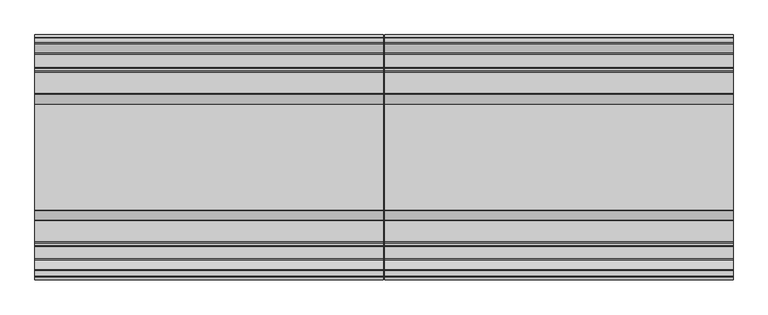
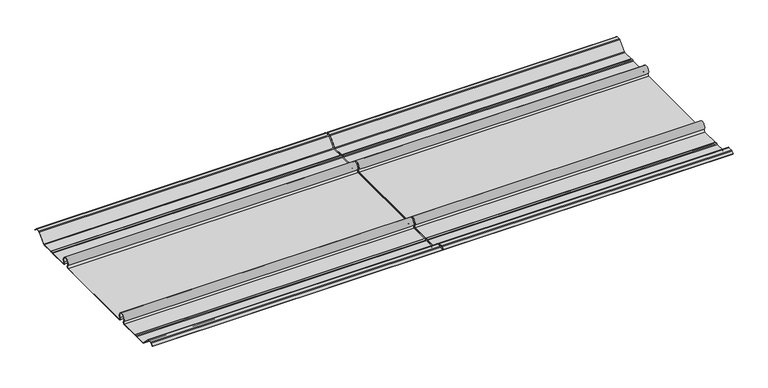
"""IFC4 building model written with IfcOpenShell, lengths in millimetres: proxy geometry."""

from ifc_helpers import new_model, si_unit, point, frame, frame_2d, origin, place, context, project, spatial, polyline, circle_curve, trimmed, segment, composite_curve, outline, extrude, source, transform, mapped, element, save


def generic_models_5a04200d(model_context):
    return source(origin(), model_context, "Body", "SweptSolid", [
        extrude(outline(composite_curve([segment(polyline([(-4.021536, 17.692427), (0.0, 13.8209287), (-0.5628134, 13.2581153), (-4.8173305, 17.3539026)]), True, "CONTINUOUS"), segment(trimmed(circle_curve(frame_2d((-6.6934261, 15.4051)), 2.7051), [point((-4.8173305, 17.3539026))], [point((-6.6934261, 18.1102))], True, "CARTESIAN"), True, "CONTINUOUS"), segment(polyline([(-6.6934261, 18.1102), (-13.8817457, 18.1102)]), True, "CONTINUOUS"), segment(trimmed(circle_curve(frame_2d((-13.8817457, 15.4051)), 2.7051), [point((-13.8817457, 18.1102))], [point((-15.8059623, 17.3064039))], True, "CARTESIAN"), True, "CONTINUOUS"), segment(polyline([(-15.8059623, 17.3064039), (-31.9741011, 0.9434226)]), True, "CONTINUOUS"), segment(trimmed(circle_curve(frame_2d((-34.2325712, 3.175)), 3.175), [point((-31.9741011, 0.9434226))], [point((-34.2325712, 0.0))], False, "CARTESIAN"), True, "CONTINUOUS"), segment(polyline([(-34.2325712, 0.0), (-57.3486405, 0.0)]), True, "CONTINUOUS"), segment(trimmed(circle_curve(frame_2d((-57.3486405, 3.175)), 3.175), [point((-57.3486405, 0.0))], [point((-59.3419174, 0.70367))], False, "CARTESIAN"), True, "CONTINUOUS"), segment(trimmed(circle_curve(frame_2d((-61.3351943, -1.7676601)), 3.175), [point((-59.3419174, 0.70367))], [point((-63.3284712, 0.70367))], True, "CARTESIAN"), True, "CONTINUOUS"), segment(trimmed(circle_curve(frame_2d((-65.3217481, 3.175)), 3.175), [point((-63.3284712, 0.70367))], [point((-65.3217481, 0.0))], False, "CARTESIAN"), True, "CONTINUOUS"), segment(polyline([(-65.3217481, 0.0), (-102.59972, 0.0)]), True, "CONTINUOUS"), segment(trimmed(circle_curve(frame_2d((-102.59972, 3.3362305)), 3.3362305), [point((-102.59972, 0.0))], [point((-105.2911698, 5.3076593))], False, "CARTESIAN"), True, "CONTINUOUS"), segment(trimmed(circle_curve(frame_2d((-111.8031627, 10.0775533)), 8.0720469), [point((-105.2911698, 5.3076593))], [point((-118.3151555, 5.3076593))], True, "CARTESIAN"), True, "CONTINUOUS"), segment(trimmed(circle_curve(frame_2d((-121.0066054, 3.3362305)), 3.3362305), [point((-118.3151555, 5.3076593))], [point((-121.0066054, 0.0))], False, "CARTESIAN"), True, "CONTINUOUS"), segment(polyline([(-121.0066054, 0.0), (-306.0308946, 0.0)]), True, "CONTINUOUS"), segment(trimmed(circle_curve(frame_2d((-306.0308946, 3.3362305)), 3.3362305), [point((-306.0308946, 0.0))], [point((-308.7223445, 5.3076593))], False, "CARTESIAN"), True, "CONTINUOUS"), segment(trimmed(circle_curve(frame_2d((-315.2343373, 10.0775533)), 8.0720469), [point((-308.7223445, 5.3076593))], [point((-321.7463302, 5.3076593))], True, "CARTESIAN"), True, "CONTINUOUS"), segment(trimmed(circle_curve(frame_2d((-324.43778, 3.3362305)), 3.3362305), [point((-321.7463302, 5.3076593))], [point((-324.43778, 0.0))], False, "CARTESIAN"), True, "CONTINUOUS"), segment(polyline([(-324.43778, 0.0), (-361.7157519, 0.0)]), True, "CONTINUOUS"), segment(trimmed(circle_curve(frame_2d((-361.7157519, 3.175)), 3.175), [point((-361.7157519, 0.0))], [point((-363.7090288, 0.70367))], False, "CARTESIAN"), True, "CONTINUOUS"), segment(trimmed(circle_curve(frame_2d((-365.7023057, -1.7676601)), 3.175), [point((-363.7090288, 0.70367))], [point((-367.6955826, 0.70367))], True, "CARTESIAN"), True, "CONTINUOUS"), segment(trimmed(circle_curve(frame_2d((-369.6888595, 3.175)), 3.175), [point((-367.6955826, 0.70367))], [point((-369.6888595, 0.0))], False, "CARTESIAN"), True, "CONTINUOUS"), segment(polyline([(-369.6888595, 0.0), (-391.0183557, 0.0)]), True, "CONTINUOUS"), segment(trimmed(circle_curve(frame_2d((-391.0183557, 3.175)), 3.175), [point((-391.0183557, 0.0))], [point((-393.2768259, 0.9434226))], False, "CARTESIAN"), True, "CONTINUOUS"), segment(polyline([(-393.2768259, 0.9434226), (-409.9092693, 17.7763039)]), True, "CONTINUOUS"), segment(trimmed(circle_curve(frame_2d((-411.8334859, 15.875)), 2.7051), [point((-409.9092693, 17.7763039))], [point((-411.8334859, 18.5801))], True, "CARTESIAN"), True, "CONTINUOUS"), segment(polyline([(-411.8334859, 18.5801), (-420.3440739, 18.5801)]), True, "CONTINUOUS"), segment(trimmed(circle_curve(frame_2d((-420.3440739, 15.875)), 2.7051), [point((-420.3440739, 18.5801))], [point((-422.2201695, 17.8238026))], True, "CARTESIAN"), True, "CONTINUOUS"), segment(polyline([(-422.2201695, 17.8238026), (-426.4855845, 13.717524), (-427.0483979, 14.2803374), (-423.015964, 18.162327)]), True, "CONTINUOUS"), segment(trimmed(circle_curve(frame_2d((-420.8139739, 15.875)), 3.175), [point((-423.015964, 18.162327))], [point((-420.8139739, 19.05))], False, "CARTESIAN"), True, "CONTINUOUS"), segment(polyline([(-420.8139739, 19.05), (-411.8334859, 19.05)]), True, "CONTINUOUS"), segment(trimmed(circle_curve(frame_2d((-411.8334859, 15.875)), 3.175), [point((-411.8334859, 19.05))], [point((-409.5750157, 18.1065774))], False, "CARTESIAN"), True, "CONTINUOUS"), segment(polyline([(-409.5750157, 18.1065774), (-392.9425723, 1.2736961)]), True, "CONTINUOUS"), segment(trimmed(circle_curve(frame_2d((-391.0183557, 3.175)), 2.7051), [point((-392.9425723, 1.2736961))], [point((-391.0183557, 0.4699))], True, "CARTESIAN"), True, "CONTINUOUS"), segment(polyline([(-391.0183557, 0.4699), (-369.8514296, 0.4699)]), True, "CONTINUOUS"), segment(trimmed(circle_curve(frame_2d((-369.8514296, 3.6449)), 3.175), [point((-369.8514296, 0.4699))], [point((-367.9198077, 1.1250862))], True, "CARTESIAN"), True, "CONTINUOUS"), segment(trimmed(circle_curve(frame_2d((-365.7023057, -1.7676601)), 3.6449), [point((-367.9198077, 1.1250862))], [point((-363.4848037, 1.1250862))], False, "CARTESIAN"), True, "CONTINUOUS"), segment(trimmed(circle_curve(frame_2d((-361.5531818, 3.6449)), 3.175), [point((-363.4848037, 1.1250862))], [point((-361.5531818, 0.4699))], True, "CARTESIAN"), True, "CONTINUOUS"), segment(polyline([(-361.5531818, 0.4699), (-324.43778, 0.4699)]), True, "CONTINUOUS"), segment(trimmed(circle_curve(frame_2d((-324.43778, 3.3362305)), 2.8663305), [point((-324.43778, 0.4699))], [point((-322.1254144, 5.0299883))], True, "CARTESIAN"), True, "CONTINUOUS"), segment(trimmed(circle_curve(frame_2d((-315.2343373, 10.0775533)), 8.5419469), [point((-322.1254144, 5.0299883))], [point((-308.3432603, 5.0299883))], False, "CARTESIAN"), True, "CONTINUOUS"), segment(trimmed(circle_curve(frame_2d((-306.0308946, 3.3362305)), 2.8663305), [point((-308.3432603, 5.0299883))], [point((-306.0308946, 0.4699))], True, "CARTESIAN"), True, "CONTINUOUS"), segment(polyline([(-306.0308946, 0.4699), (-121.0066054, 0.4699)]), True, "CONTINUOUS"), segment(trimmed(circle_curve(frame_2d((-121.0066054, 3.3362305)), 2.8663305), [point((-121.0066054, 0.4699))], [point((-118.6942397, 5.0299883))], True, "CARTESIAN"), True, "CONTINUOUS"), segment(trimmed(circle_curve(frame_2d((-111.8031627, 10.0775533)), 8.5419469), [point((-118.6942397, 5.0299883))], [point((-104.9120856, 5.0299883))], False, "CARTESIAN"), True, "CONTINUOUS"), segment(trimmed(circle_curve(frame_2d((-102.59972, 3.3362305)), 2.8663305), [point((-104.9120856, 5.0299883))], [point((-102.59972, 0.4699))], True, "CARTESIAN"), True, "CONTINUOUS"), segment(polyline([(-102.59972, 0.4699), (-65.4843182, 0.4699)]), True, "CONTINUOUS"), segment(trimmed(circle_curve(frame_2d((-65.4843182, 3.6449)), 3.175), [point((-65.4843182, 0.4699))], [point((-63.5526963, 1.1250862))], True, "CARTESIAN"), True, "CONTINUOUS"), segment(trimmed(circle_curve(frame_2d((-61.3351943, -1.7676601)), 3.6449), [point((-63.5526963, 1.1250862))], [point((-59.1176923, 1.1250862))], False, "CARTESIAN"), True, "CONTINUOUS"), segment(trimmed(circle_curve(frame_2d((-57.1860704, 3.6449)), 3.175), [point((-59.1176923, 1.1250862))], [point((-57.1860704, 0.4699))], True, "CARTESIAN"), True, "CONTINUOUS"), segment(polyline([(-57.1860704, 0.4699), (-34.2325712, 0.4699)]), True, "CONTINUOUS"), segment(trimmed(circle_curve(frame_2d((-34.2325712, 3.175)), 2.7051), [point((-34.2325712, 0.4699))], [point((-32.3083547, 1.2736961))], True, "CARTESIAN"), True, "CONTINUOUS"), segment(polyline([(-32.3083547, 1.2736961), (-16.1402159, 17.6366774)]), True, "CONTINUOUS"), segment(trimmed(circle_curve(frame_2d((-13.8817457, 15.4051)), 3.175), [point((-16.1402159, 17.6366774))], [point((-13.8817457, 18.5801))], False, "CARTESIAN"), True, "CONTINUOUS"), segment(polyline([(-13.8817457, 18.5801), (-6.2235261, 18.5801)]), True, "CONTINUOUS"), segment(trimmed(circle_curve(frame_2d((-6.2235261, 15.4051)), 3.175), [point((-6.2235261, 18.5801))], [point((-4.021536, 17.692427))], False, "CARTESIAN"), True, "CONTINUOUS")], self_intersect=False)), frame((609.6, 0.0, 0.0), z_axis=(1.0, 0.0, 0.0), x_axis=(0.0, 1.0, 0.0)), (0.0, 0.0, 1.0), 606.425),
        extrude(outline(composite_curve([segment(polyline([(-4.021536, 17.692427), (0.0, 13.8209287), (-0.5628134, 13.2581153), (-4.8173305, 17.3539026)]), True, "CONTINUOUS"), segment(trimmed(circle_curve(frame_2d((-6.6934261, 15.4051)), 2.7051), [point((-4.8173305, 17.3539026))], [point((-6.6934261, 18.1102))], True, "CARTESIAN"), True, "CONTINUOUS"), segment(polyline([(-6.6934261, 18.1102), (-13.8817457, 18.1102)]), True, "CONTINUOUS"), segment(trimmed(circle_curve(frame_2d((-13.8817457, 15.4051)), 2.7051), [point((-13.8817457, 18.1102))], [point((-15.8059623, 17.3064039))], True, "CARTESIAN"), True, "CONTINUOUS"), segment(polyline([(-15.8059623, 17.3064039), (-31.9741011, 0.9434226)]), True, "CONTINUOUS"), segment(trimmed(circle_curve(frame_2d((-34.2325712, 3.175)), 3.175), [point((-31.9741011, 0.9434226))], [point((-34.2325712, 0.0))], False, "CARTESIAN"), True, "CONTINUOUS"), segment(polyline([(-34.2325712, 0.0), (-57.3486405, 0.0)]), True, "CONTINUOUS"), segment(trimmed(circle_curve(frame_2d((-57.3486405, 3.175)), 3.175), [point((-57.3486405, 0.0))], [point((-59.3419174, 0.70367))], False, "CARTESIAN"), True, "CONTINUOUS"), segment(trimmed(circle_curve(frame_2d((-61.3351943, -1.7676601)), 3.175), [point((-59.3419174, 0.70367))], [point((-63.3284712, 0.70367))], True, "CARTESIAN"), True, "CONTINUOUS"), segment(trimmed(circle_curve(frame_2d((-65.3217481, 3.175)), 3.175), [point((-63.3284712, 0.70367))], [point((-65.3217481, 0.0))], False, "CARTESIAN"), True, "CONTINUOUS"), segment(polyline([(-65.3217481, 0.0), (-102.59972, 0.0)]), True, "CONTINUOUS"), segment(trimmed(circle_curve(frame_2d((-102.59972, 3.3362305)), 3.3362305), [point((-102.59972, 0.0))], [point((-105.2911698, 5.3076593))], False, "CARTESIAN"), True, "CONTINUOUS"), segment(trimmed(circle_curve(frame_2d((-111.8031627, 10.0775533)), 8.0720469), [point((-105.2911698, 5.3076593))], [point((-118.3151555, 5.3076593))], True, "CARTESIAN"), True, "CONTINUOUS"), segment(trimmed(circle_curve(frame_2d((-121.0066054, 3.3362305)), 3.3362305), [point((-118.3151555, 5.3076593))], [point((-121.0066054, 0.0))], False, "CARTESIAN"), True, "CONTINUOUS"), segment(polyline([(-121.0066054, 0.0), (-306.0308946, 0.0)]), True, "CONTINUOUS"), segment(trimmed(circle_curve(frame_2d((-306.0308946, 3.3362305)), 3.3362305), [point((-306.0308946, 0.0))], [point((-308.7223445, 5.3076593))], False, "CARTESIAN"), True, "CONTINUOUS"), segment(trimmed(circle_curve(frame_2d((-315.2343373, 10.0775533)), 8.0720469), [point((-308.7223445, 5.3076593))], [point((-321.7463302, 5.3076593))], True, "CARTESIAN"), True, "CONTINUOUS"), segment(trimmed(circle_curve(frame_2d((-324.43778, 3.3362305)), 3.3362305), [point((-321.7463302, 5.3076593))], [point((-324.43778, 0.0))], False, "CARTESIAN"), True, "CONTINUOUS"), segment(polyline([(-324.43778, 0.0), (-361.7157519, 0.0)]), True, "CONTINUOUS"), segment(trimmed(circle_curve(frame_2d((-361.7157519, 3.175)), 3.175), [point((-361.7157519, 0.0))], [point((-363.7090288, 0.70367))], False, "CARTESIAN"), True, "CONTINUOUS"), segment(trimmed(circle_curve(frame_2d((-365.7023057, -1.7676601)), 3.175), [point((-363.7090288, 0.70367))], [point((-367.6955826, 0.70367))], True, "CARTESIAN"), True, "CONTINUOUS"), segment(trimmed(circle_curve(frame_2d((-369.6888595, 3.175)), 3.175), [point((-367.6955826, 0.70367))], [point((-369.6888595, 0.0))], False, "CARTESIAN"), True, "CONTINUOUS"), segment(polyline([(-369.6888595, 0.0), (-391.0183557, 0.0)]), True, "CONTINUOUS"), segment(trimmed(circle_curve(frame_2d((-391.0183557, 3.175)), 3.175), [point((-391.0183557, 0.0))], [point((-393.2768259, 0.9434226))], False, "CARTESIAN"), True, "CONTINUOUS"), segment(polyline([(-393.2768259, 0.9434226), (-409.9092693, 17.7763039)]), True, "CONTINUOUS"), segment(trimmed(circle_curve(frame_2d((-411.8334859, 15.875)), 2.7051), [point((-409.9092693, 17.7763039))], [point((-411.8334859, 18.5801))], True, "CARTESIAN"), True, "CONTINUOUS"), segment(polyline([(-411.8334859, 18.5801), (-420.3440739, 18.5801)]), True, "CONTINUOUS"), segment(trimmed(circle_curve(frame_2d((-420.3440739, 15.875)), 2.7051), [point((-420.3440739, 18.5801))], [point((-422.2201695, 17.8238026))], True, "CARTESIAN"), True, "CONTINUOUS"), segment(polyline([(-422.2201695, 17.8238026), (-426.4855845, 13.717524), (-427.0483979, 14.2803374), (-423.015964, 18.162327)]), True, "CONTINUOUS"), segment(trimmed(circle_curve(frame_2d((-420.8139739, 15.875)), 3.175), [point((-423.015964, 18.162327))], [point((-420.8139739, 19.05))], False, "CARTESIAN"), True, "CONTINUOUS"), segment(polyline([(-420.8139739, 19.05), (-411.8334859, 19.05)]), True, "CONTINUOUS"), segment(trimmed(circle_curve(frame_2d((-411.8334859, 15.875)), 3.175), [point((-411.8334859, 19.05))], [point((-409.5750157, 18.1065774))], False, "CARTESIAN"), True, "CONTINUOUS"), segment(polyline([(-409.5750157, 18.1065774), (-392.9425723, 1.2736961)]), True, "CONTINUOUS"), segment(trimmed(circle_curve(frame_2d((-391.0183557, 3.175)), 2.7051), [point((-392.9425723, 1.2736961))], [point((-391.0183557, 0.4699))], True, "CARTESIAN"), True, "CONTINUOUS"), segment(polyline([(-391.0183557, 0.4699), (-369.8514296, 0.4699)]), True, "CONTINUOUS"), segment(trimmed(circle_curve(frame_2d((-369.8514296, 3.6449)), 3.175), [point((-369.8514296, 0.4699))], [point((-367.9198077, 1.1250862))], True, "CARTESIAN"), True, "CONTINUOUS"), segment(trimmed(circle_curve(frame_2d((-365.7023057, -1.7676601)), 3.6449), [point((-367.9198077, 1.1250862))], [point((-363.4848037, 1.1250862))], False, "CARTESIAN"), True, "CONTINUOUS"), segment(trimmed(circle_curve(frame_2d((-361.5531818, 3.6449)), 3.175), [point((-363.4848037, 1.1250862))], [point((-361.5531818, 0.4699))], True, "CARTESIAN"), True, "CONTINUOUS"), segment(polyline([(-361.5531818, 0.4699), (-324.43778, 0.4699)]), True, "CONTINUOUS"), segment(trimmed(circle_curve(frame_2d((-324.43778, 3.3362305)), 2.8663305), [point((-324.43778, 0.4699))], [point((-322.1254144, 5.0299883))], True, "CARTESIAN"), True, "CONTINUOUS"), segment(trimmed(circle_curve(frame_2d((-315.2343373, 10.0775533)), 8.5419469), [point((-322.1254144, 5.0299883))], [point((-308.3432603, 5.0299883))], False, "CARTESIAN"), True, "CONTINUOUS"), segment(trimmed(circle_curve(frame_2d((-306.0308946, 3.3362305)), 2.8663305), [point((-308.3432603, 5.0299883))], [point((-306.0308946, 0.4699))], True, "CARTESIAN"), True, "CONTINUOUS"), segment(polyline([(-306.0308946, 0.4699), (-121.0066054, 0.4699)]), True, "CONTINUOUS"), segment(trimmed(circle_curve(frame_2d((-121.0066054, 3.3362305)), 2.8663305), [point((-121.0066054, 0.4699))], [point((-118.6942397, 5.0299883))], True, "CARTESIAN"), True, "CONTINUOUS"), segment(trimmed(circle_curve(frame_2d((-111.8031627, 10.0775533)), 8.5419469), [point((-118.6942397, 5.0299883))], [point((-104.9120856, 5.0299883))], False, "CARTESIAN"), True, "CONTINUOUS"), segment(trimmed(circle_curve(frame_2d((-102.59972, 3.3362305)), 2.8663305), [point((-104.9120856, 5.0299883))], [point((-102.59972, 0.4699))], True, "CARTESIAN"), True, "CONTINUOUS"), segment(polyline([(-102.59972, 0.4699), (-65.4843182, 0.4699)]), True, "CONTINUOUS"), segment(trimmed(circle_curve(frame_2d((-65.4843182, 3.6449)), 3.175), [point((-65.4843182, 0.4699))], [point((-63.5526963, 1.1250862))], True, "CARTESIAN"), True, "CONTINUOUS"), segment(trimmed(circle_curve(frame_2d((-61.3351943, -1.7676601)), 3.6449), [point((-63.5526963, 1.1250862))], [point((-59.1176923, 1.1250862))], False, "CARTESIAN"), True, "CONTINUOUS"), segment(trimmed(circle_curve(frame_2d((-57.1860704, 3.6449)), 3.175), [point((-59.1176923, 1.1250862))], [point((-57.1860704, 0.4699))], True, "CARTESIAN"), True, "CONTINUOUS"), segment(polyline([(-57.1860704, 0.4699), (-34.2325712, 0.4699)]), True, "CONTINUOUS"), segment(trimmed(circle_curve(frame_2d((-34.2325712, 3.175)), 2.7051), [point((-34.2325712, 0.4699))], [point((-32.3083547, 1.2736961))], True, "CARTESIAN"), True, "CONTINUOUS"), segment(polyline([(-32.3083547, 1.2736961), (-16.1402159, 17.6366774)]), True, "CONTINUOUS"), segment(trimmed(circle_curve(frame_2d((-13.8817457, 15.4051)), 3.175), [point((-16.1402159, 17.6366774))], [point((-13.8817457, 18.5801))], False, "CARTESIAN"), True, "CONTINUOUS"), segment(polyline([(-13.8817457, 18.5801), (-6.2235261, 18.5801)]), True, "CONTINUOUS"), segment(trimmed(circle_curve(frame_2d((-6.2235261, 15.4051)), 3.175), [point((-6.2235261, 18.5801))], [point((-4.021536, 17.692427))], False, "CARTESIAN"), True, "CONTINUOUS")], self_intersect=False)), frame((0.0, 0.0, 0.0), z_axis=(1.0, 0.0, 0.0), x_axis=(0.0, 1.0, 0.0)), (0.0, 0.0, 1.0), 606.425),
    ])


if __name__ == "__main__":
    model = new_model("IFC4")
    model_context = context("Model", 3, world=origin())
    ifc_project = project(units=[si_unit("LENGTHUNIT", "METRE", prefix="MILLI")], contexts=[model_context])
    site = spatial("IfcSite", under=ifc_project)
    building = spatial("IfcBuilding", under=site)
    placement = place(None, origin())
    generic_models_shape = generic_models_5a04200d(model_context)
    element("IfcBuildingElementProxy", 1, Name="Generic Models", at=placement, inside=building, context=model_context, shape_type="MappedRepresentation", body=[
        mapped(generic_models_shape, transform((0.0, 0.0, 0.0), x_axis=(1.0, 0.0, 0.0), y_axis=(0.0, 1.0, 0.0), z_axis=(0.0, 0.0, 1.0))),
    ])
    save(model, "model.ifc")
